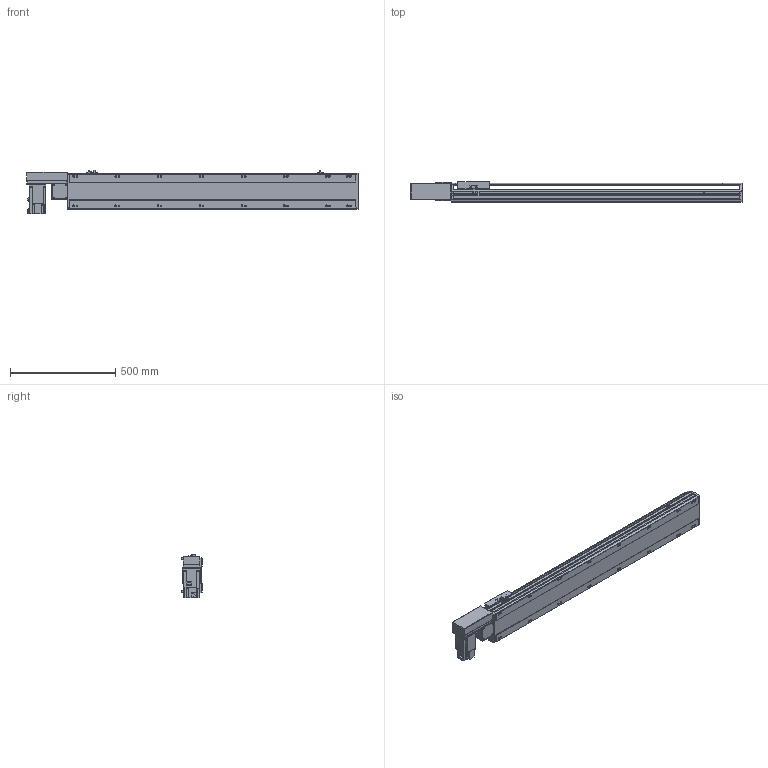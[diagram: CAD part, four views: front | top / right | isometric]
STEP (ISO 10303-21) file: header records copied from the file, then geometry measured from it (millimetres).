
FILE_DESCRIPTION( ( 'STEP AP214' ), '1' );
FILE_NAME( 'x:/temp/worker_4/temp/exporttempdir_2248_263_Br3gH/format_0/PBS170-P40-S1100-R-T75-C1-N(0).stp', '2022-06-07T07:30:10', ( 'License CC BY-ND 4.0' ), ( 'CADENAS' ), ' ', 'PARTsolutions', ' ' );
FILE_SCHEMA( ( 'AUTOMOTIVE_DESIGN { 1 0 10303 214 1 1 1 1 }' ) );
Length unit declared in the file: millimetre
Products named in the file (7): PBS170-P40-S1100-R-T75-C1-N(0); _PBS170-S1100()_body; _PBS170T-R_motors; _T75-p1; _PBS170_sliser; _PBS170_plant; _PBS170_sensor
Assembly tree (8 placements, depth 2):
  PBS170-P40-S1100-R-T75-C1-N(0)
    _PBS170-S1100()_body
    _PBS170T-R_motors
    _T75-p1
    _PBS170_sliser
    _PBS170_plant
    _PBS170_sensor  x3
Bounding box: 1578 x 97 x 205.3 mm (x, y, z)
Volume: 11701873.6 mm3; surface area: 1526560.8 mm2
Topology: 8 solids, 8 shells, 1082 faces, 2875 edges, 1874 vertices
Faces by surface type: plane 687, cylinder 339, cone 46, sphere 8, torus 2
Full cylindrical faces by diameter (mm): 3.242 x4, 4 x2, 4.4 x4, 4.5 x6, 4.917 x4, 6 x9, 6.647 x24, 7 x2, 7.5 x4, 8 x8, 8.5 x16, 10 x4, 10.5 x16, 11 x2, 30 x2, 40 x1, 70 x1
Entity records: 39740 total; most frequent: CARTESIAN_POINT 6221, DIRECTION 5300, ORIENTED_EDGE 5028, EDGE_CURVE 2514, AXIS2_PLACEMENT_3D 1837, VERTEX_POINT 1730, LINE 1626, VECTOR 1626
